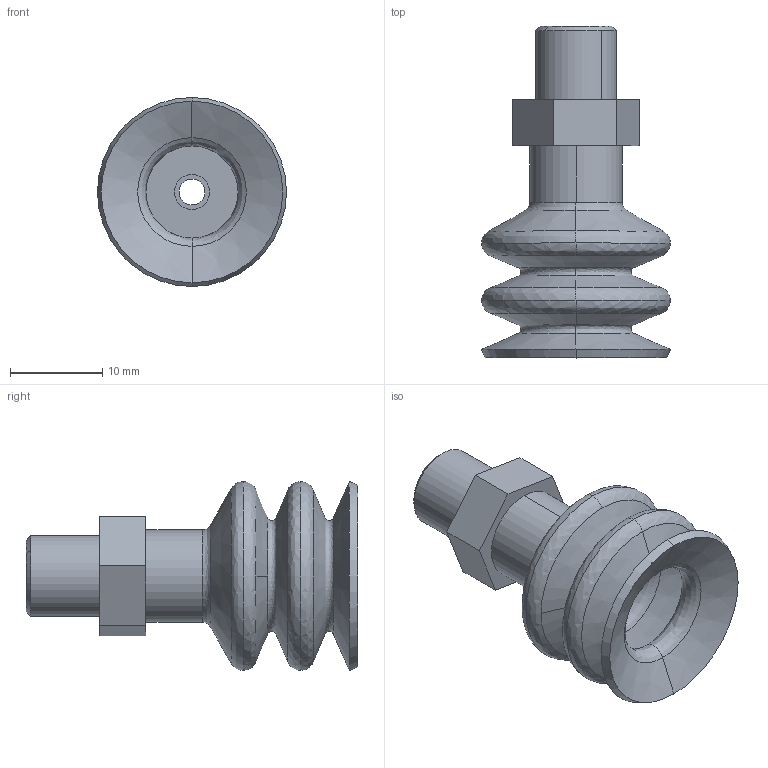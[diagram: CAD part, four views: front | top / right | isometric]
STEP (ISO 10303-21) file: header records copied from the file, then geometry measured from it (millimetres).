
FILE_DESCRIPTION (( 'STEP AP203' ), '1' );
FILE_NAME ('FSG-20.STEP', '2024-12-05T08:42:06', ( '' ), ( '' ), 'SwSTEP 2.0', 'SolidWorks 2018', '' );
FILE_SCHEMA (( 'CONFIG_CONTROL_DESIGN' ));
Length unit declared in the file: millimetre
Products named in the file (3): FG-20; VM40-G18(1); FSG-20
Assembly tree (2 placements, depth 2):
  FSG-20
    FG-20
    VM40-G18(1)
Bounding box: 20.5 x 36 x 20.5 mm (x, y, z)
Volume: 3233.6 mm3; surface area: 4209.2 mm2
Topology: 2 solids, 2 shells, 77 faces, 164 edges, 94 vertices
Faces by surface type: cone 26, bspline 26, plane 13, cylinder 12
Entity records: 2651 total; most frequent: CARTESIAN_POINT 808, DIRECTION 332, ORIENTED_EDGE 328, EDGE_CURVE 164, AXIS2_PLACEMENT_3D 138, VERTEX_POINT 94, EDGE_LOOP 84, CIRCLE 82
